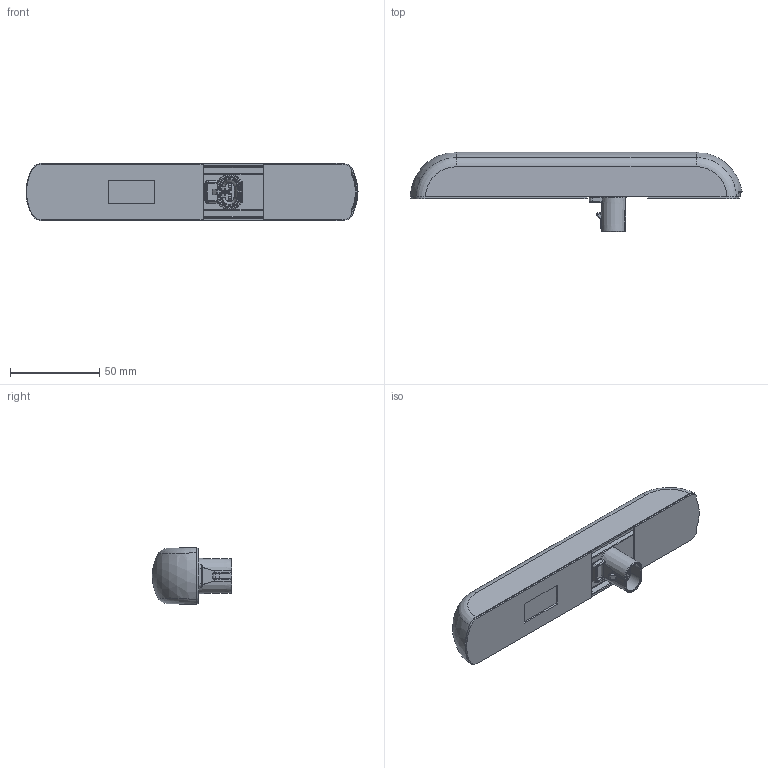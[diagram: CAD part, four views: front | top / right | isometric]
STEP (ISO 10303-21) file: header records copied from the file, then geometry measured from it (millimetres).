
FILE_DESCRIPTION(('CATIA V5 STEP Exchange','CAx-IF Rec.Pracs.--- Model Styling and Organization---1.5--- 2016-08-15','CAx-IF Rec.Pracs.---Supplemental Geometry---1.0---2011-11-01','CAx-IF Rec.Pracs.--- Composite Materials ---1.1---2010-07-15'),'2;1');
FILE_NAME('E:\tmp\ddx\2011205\3D_data_LED_aux_direction_indicator_lamp_cat-6_011-788_without_frame.stp','2022-01-18T06:57:37+00:00',('none'),('none'),'CATIA Version 5-6 Release 2020 SP3 HF9','CATIA V5 STEP AP214 Edition 3 v2','none');
FILE_SCHEMA(('AUTOMOTIVE_DESIGN { 1 0 10303 214 3 1 1 1 }'));
Length unit declared in the file: millimetre
Products named in the file (1): 10001154965_D10_001
Bounding box: 185.69 x 44.5 x 32 mm (x, y, z)
Surface area: 32587.1 mm2 (no closed solid volume)
Topology: 0 solids, 40 shells, 482 faces, 1646 edges, 1181 vertices
Faces by surface type: bspline 155, cylinder 154, plane 124, sphere 22, torus 21, cone 6
Entity records: 24666 total; most frequent: CARTESIAN_POINT 13710, ORIENTED_EDGE 2503, EDGE_CURVE 1501, DIRECTION 1329, VERTEX_POINT 1022, B_SPLINE_CURVE_WITH_KNOTS 776, VECTOR 528, LINE 528
